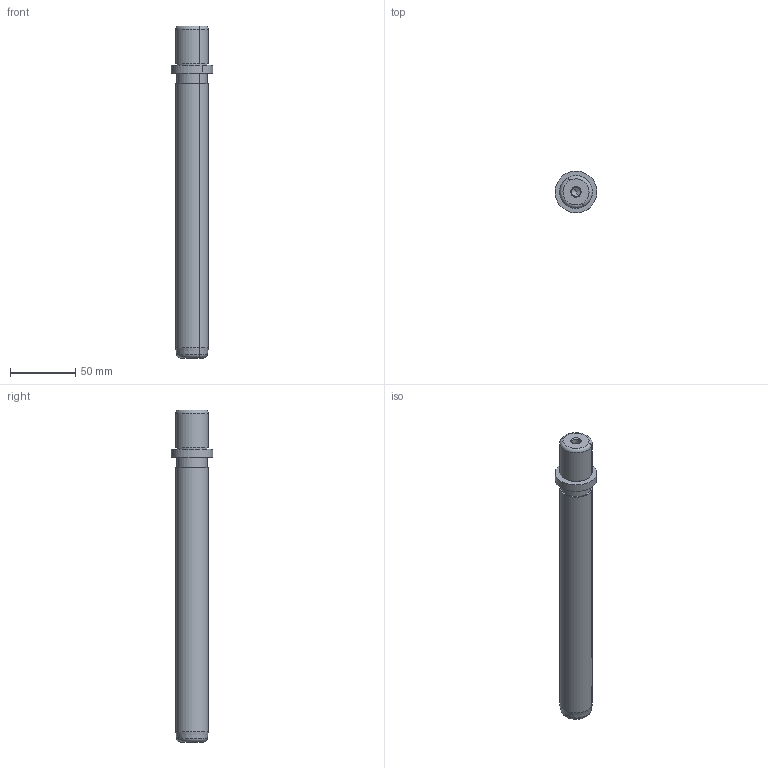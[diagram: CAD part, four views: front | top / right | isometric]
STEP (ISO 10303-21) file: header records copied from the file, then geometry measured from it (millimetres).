
FILE_DESCRIPTION(('CATIA V5 STEP Exchange','CAx-IF Rec.Pracs.--- Model Styling and Organization---1.5--- 2016-08-15','CAx-IF Rec.Pracs.---Supplemental Geometry---1.0---2011-11-01','CAx-IF Rec.Pracs.--- Composite Materials ---1.1---2010-07-15','CAx-IF Rec.Pracs.---External References---2.1---2005-01-19'),'2;1');
FILE_NAME('E:\WAT\Sprezarka\122_00_00_Tlocznik2\Tlocznik2_KPL\Tlocznik2_stp\2021_46_025_224_30.stp','2023-08-01T08:40:10+00:00',('none'),('none'),'CATIA Version 5-6 Release 2022 SP3','CATIA V5 STEP AP214 v2','none');
FILE_SCHEMA(('AUTOMOTIVE_DESIGN { 1 0 10303 214 1 1 1 1 }'));
Length unit declared in the file: millimetre
Products named in the file (1): 2021_46_025_224_30
Bounding box: 31.99 x 31.99 x 254 mm (x, y, z)
Volume: 123707.6 mm3; surface area: 22630.7 mm2
Topology: 1 solids, 1 shells, 32 faces, 66 edges, 38 vertices
Faces by surface type: cylinder 14, cone 8, plane 6, torus 4
Entity records: 727 total; most frequent: ORIENTED_EDGE 124, CARTESIAN_POINT 117, DIRECTION 94, EDGE_CURVE 62, AXIS2_PLACEMENT_3D 57, CIRCLE 40, EDGE_LOOP 38, VERTEX_POINT 38
